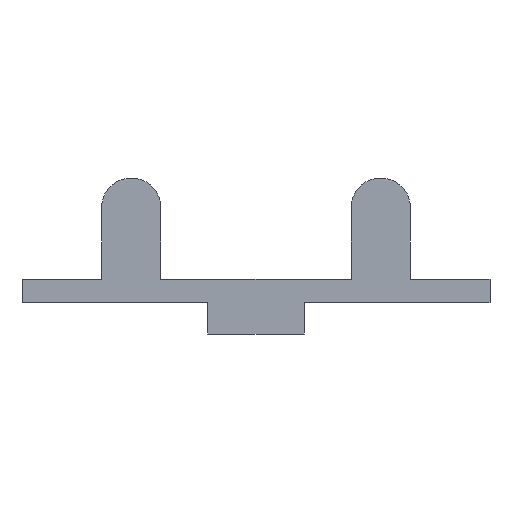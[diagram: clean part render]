
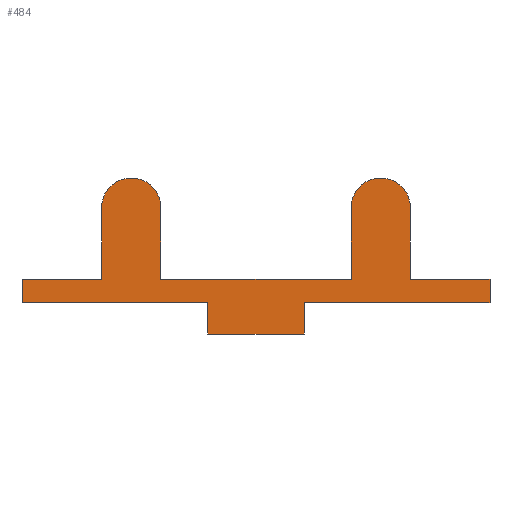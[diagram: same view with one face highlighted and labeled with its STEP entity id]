
A CAD part, front view. The second image highlights one B-rep face of the part: STEP entity #484.
In plain terms, the highlighted planar face has unit normal (0, -1, 0).
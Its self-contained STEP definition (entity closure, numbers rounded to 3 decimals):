
#21=CIRCLE('',#500,1.9);
#23=CIRCLE('',#506,1.9);
#95=ORIENTED_EDGE('',*,*,#127,.T.);
#96=ORIENTED_EDGE('',*,*,#125,.T.);
#97=ORIENTED_EDGE('',*,*,#166,.T.);
#98=ORIENTED_EDGE('',*,*,#167,.T.);
#99=ORIENTED_EDGE('',*,*,#168,.T.);
#100=ORIENTED_EDGE('',*,*,#133,.T.);
#101=ORIENTED_EDGE('',*,*,#134,.T.);
#102=ORIENTED_EDGE('',*,*,#137,.T.);
#103=ORIENTED_EDGE('',*,*,#140,.T.);
#104=ORIENTED_EDGE('',*,*,#143,.T.);
#105=ORIENTED_EDGE('',*,*,#146,.T.);
#106=ORIENTED_EDGE('',*,*,#149,.T.);
#107=ORIENTED_EDGE('',*,*,#152,.T.);
#108=ORIENTED_EDGE('',*,*,#155,.T.);
#109=ORIENTED_EDGE('',*,*,#158,.T.);
#110=ORIENTED_EDGE('',*,*,#161,.T.);
#125=EDGE_CURVE('',#174,#173,#205,.T.);
#127=EDGE_CURVE('',#175,#174,#207,.T.);
#133=EDGE_CURVE('',#178,#180,#213,.T.);
#134=EDGE_CURVE('',#180,#181,#214,.T.);
#137=EDGE_CURVE('',#181,#183,#217,.T.);
#140=EDGE_CURVE('',#183,#185,#220,.T.);
#143=EDGE_CURVE('',#185,#187,#21,.T.);
#146=EDGE_CURVE('',#187,#189,#224,.T.);
#149=EDGE_CURVE('',#189,#191,#227,.T.);
#152=EDGE_CURVE('',#191,#193,#230,.T.);
#155=EDGE_CURVE('',#193,#195,#23,.T.);
#158=EDGE_CURVE('',#195,#197,#234,.T.);
#161=EDGE_CURVE('',#197,#175,#237,.T.);
#166=EDGE_CURVE('',#173,#201,#242,.T.);
#167=EDGE_CURVE('',#201,#202,#243,.T.);
#168=EDGE_CURVE('',#202,#178,#244,.T.);
#173=VERTEX_POINT('',#611);
#174=VERTEX_POINT('',#613);
#175=VERTEX_POINT('',#617);
#178=VERTEX_POINT('',#624);
#180=VERTEX_POINT('',#628);
#181=VERTEX_POINT('',#632);
#183=VERTEX_POINT('',#638);
#185=VERTEX_POINT('',#644);
#187=VERTEX_POINT('',#650);
#189=VERTEX_POINT('',#656);
#191=VERTEX_POINT('',#662);
#193=VERTEX_POINT('',#668);
#195=VERTEX_POINT('',#674);
#197=VERTEX_POINT('',#680);
#201=VERTEX_POINT('',#695);
#202=VERTEX_POINT('',#697);
#205=LINE('',#612,#249);
#207=LINE('',#616,#251);
#213=LINE('',#629,#257);
#214=LINE('',#631,#258);
#217=LINE('',#637,#261);
#220=LINE('',#643,#264);
#224=LINE('',#655,#268);
#227=LINE('',#661,#271);
#230=LINE('',#667,#274);
#234=LINE('',#679,#278);
#237=LINE('',#685,#281);
#242=LINE('',#694,#286);
#243=LINE('',#696,#287);
#244=LINE('',#698,#288);
#249=VECTOR('',#521,1000.);
#251=VECTOR('',#525,1000.);
#257=VECTOR('',#533,1000.);
#258=VECTOR('',#536,1000.);
#261=VECTOR('',#541,1000.);
#264=VECTOR('',#546,1000.);
#268=VECTOR('',#558,1000.);
#271=VECTOR('',#563,1000.);
#274=VECTOR('',#568,1000.);
#278=VECTOR('',#580,1000.);
#281=VECTOR('',#585,1000.);
#286=VECTOR('',#594,1000.);
#287=VECTOR('',#595,1000.);
#288=VECTOR('',#596,1000.);
#305=EDGE_LOOP('',(#95,#96,#97,#98,#99,#100,#101,#102,#103,#104,#105,#106,
#107,#108,#109,#110));
#323=FACE_BOUND('',#305,.T.);
#339=PLANE('',#511);
#484=ADVANCED_FACE('',(#323),#339,.T.);
#500=AXIS2_PLACEMENT_3D('',#649,#551,#552);
#506=AXIS2_PLACEMENT_3D('',#673,#573,#574);
#511=AXIS2_PLACEMENT_3D('',#693,#592,#593);
#521=DIRECTION('',(1.,0.,0.));
#525=DIRECTION('',(0.,0.,-1.));
#533=DIRECTION('',(1.,0.,0.));
#536=DIRECTION('',(0.,0.,1.));
#541=DIRECTION('',(-1.,0.,0.));
#546=DIRECTION('',(0.,0.,1.));
#551=DIRECTION('',(0.,-1.,0.));
#552=DIRECTION('',(1.,0.,0.));
#558=DIRECTION('',(0.,0.,-1.));
#563=DIRECTION('',(-1.,0.,0.));
#568=DIRECTION('',(0.,0.,1.));
#573=DIRECTION('',(0.,-1.,0.));
#574=DIRECTION('',(1.,0.,0.));
#580=DIRECTION('',(0.,0.,-1.));
#585=DIRECTION('',(-1.,0.,0.));
#592=DIRECTION('',(0.,-1.,0.));
#593=DIRECTION('',(0.,0.,-1.));
#594=DIRECTION('',(0.,0.,-1.));
#595=DIRECTION('',(1.,0.,0.));
#596=DIRECTION('',(0.,0.,1.));
#611=CARTESIAN_POINT('',(-3.1,0.,0.));
#612=CARTESIAN_POINT('',(-15.,0.,0.));
#613=CARTESIAN_POINT('',(-15.,0.,0.));
#616=CARTESIAN_POINT('',(-15.,0.,1.5));
#617=CARTESIAN_POINT('',(-15.,0.,1.5));
#624=CARTESIAN_POINT('',(3.1,0.,0.));
#628=CARTESIAN_POINT('',(15.,0.,0.));
#629=CARTESIAN_POINT('',(-15.,0.,0.));
#631=CARTESIAN_POINT('',(15.,0.,0.));
#632=CARTESIAN_POINT('',(15.,0.,1.5));
#637=CARTESIAN_POINT('',(15.,0.,1.5));
#638=CARTESIAN_POINT('',(9.9,0.,1.5));
#643=CARTESIAN_POINT('',(9.9,0.,1.5));
#644=CARTESIAN_POINT('',(9.9,0.,6.1));
#649=CARTESIAN_POINT('',(8.,0.,6.1));
#650=CARTESIAN_POINT('',(6.1,0.,6.1));
#655=CARTESIAN_POINT('',(6.1,0.,6.1));
#656=CARTESIAN_POINT('',(6.1,0.,1.5));
#661=CARTESIAN_POINT('',(6.1,0.,1.5));
#662=CARTESIAN_POINT('',(-6.1,0.,1.5));
#667=CARTESIAN_POINT('',(-6.1,0.,1.5));
#668=CARTESIAN_POINT('',(-6.1,0.,6.1));
#673=CARTESIAN_POINT('',(-8.,0.,6.1));
#674=CARTESIAN_POINT('',(-9.9,0.,6.1));
#679=CARTESIAN_POINT('',(-9.9,0.,6.1));
#680=CARTESIAN_POINT('',(-9.9,0.,1.5));
#685=CARTESIAN_POINT('',(-9.9,0.,1.5));
#693=CARTESIAN_POINT('',(8.,0.,6.1));
#694=CARTESIAN_POINT('',(-3.1,0.,-2.));
#695=CARTESIAN_POINT('',(-3.1,0.,-2.));
#696=CARTESIAN_POINT('',(3.1,0.,-2.));
#697=CARTESIAN_POINT('',(3.1,0.,-2.));
#698=CARTESIAN_POINT('',(3.1,0.,0.));
